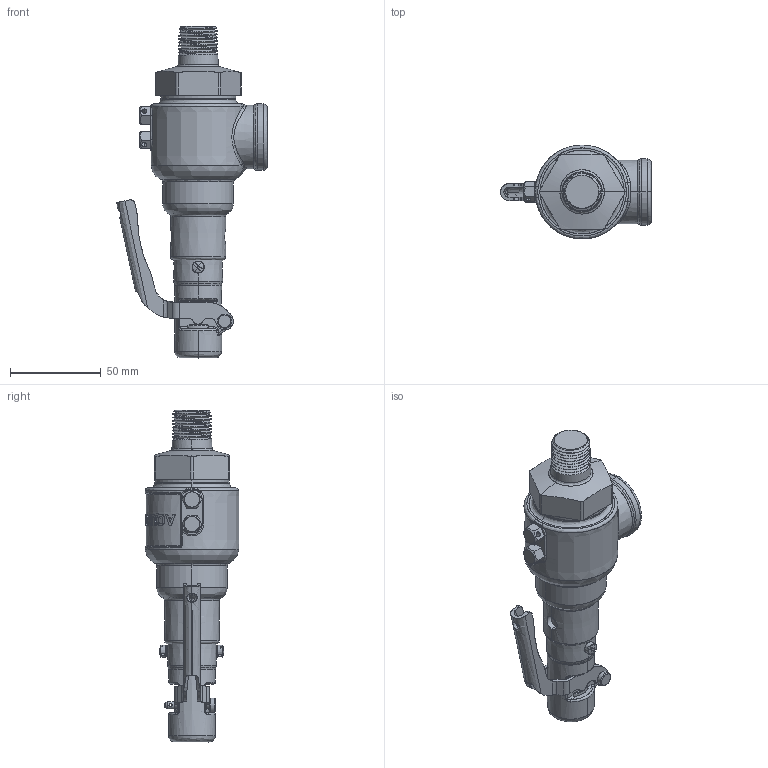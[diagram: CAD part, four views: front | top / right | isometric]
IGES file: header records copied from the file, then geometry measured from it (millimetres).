
Start section: SolidWorks IGES file using analytic representation for surfaces
Global section: file name: C:\Design\Design\Aquatrol\Customer 3D Files\Series 560 Customer Files\Series 560 500 x 750\Customer\Series 560 500 x 750.IGS; native system: SolidWorks 2015; preprocessor: SolidWorks 2015; author: Karl; date: 141202.100944; units: inch
Bounding box: 82.93 x 51.59 x 182.56 mm (x, y, z)
Surface area: 32510.7 mm2 (no closed solid volume)
Topology: 0 solids, 0 shells, 501 faces, 7875 edges, 7873 vertices
Faces by surface type: bspline 302, revolution 199
